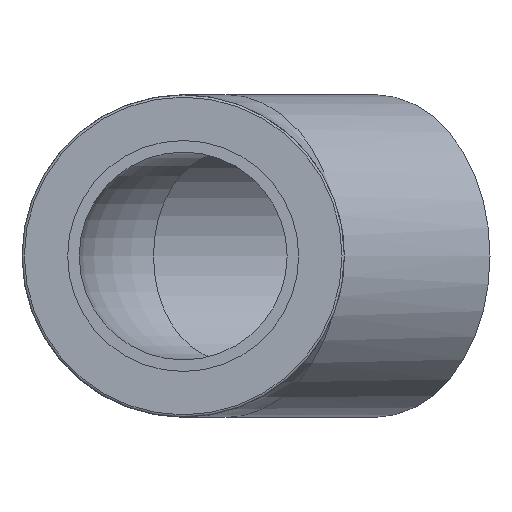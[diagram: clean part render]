
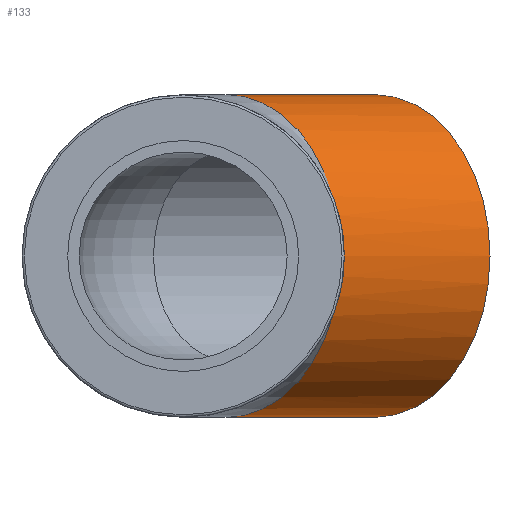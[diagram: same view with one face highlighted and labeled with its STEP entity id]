
A CAD part, left-side view. The second image highlights one B-rep face of the part: STEP entity #133.
In plain terms, the highlighted cylindrical face has radius 13 mm (diameter 26 mm), a full revolution.
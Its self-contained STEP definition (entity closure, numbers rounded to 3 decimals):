
#15=ELLIPSE('',#154,14.071,13.);
#23=CYLINDRICAL_SURFACE('',#153,13.);
#30=FACE_BOUND('',#58,.T.);
#41=FACE_OUTER_BOUND('',#57,.T.);
#57=EDGE_LOOP('',(#113,#114));
#58=EDGE_LOOP('',(#115));
#74=CIRCLE('',#152,13.);
#75=CIRCLE('',#155,13.);
#84=VERTEX_POINT('',#253);
#85=VERTEX_POINT('',#254);
#86=VERTEX_POINT('',#259);
#96=EDGE_CURVE('',#85,#84,#74,.T.);
#97=EDGE_CURVE('',#84,#85,#15,.T.);
#98=EDGE_CURVE('',#86,#86,#75,.T.);
#113=ORIENTED_EDGE('',*,*,#97,.F.);
#114=ORIENTED_EDGE('',*,*,#96,.F.);
#115=ORIENTED_EDGE('',*,*,#98,.T.);
#133=ADVANCED_FACE('',(#41,#30),#23,.T.);
#152=AXIS2_PLACEMENT_3D('',#256,#188,#189);
#153=AXIS2_PLACEMENT_3D('',#257,#190,#191);
#154=AXIS2_PLACEMENT_3D('',#258,#192,#193);
#155=AXIS2_PLACEMENT_3D('',#260,#194,#195);
#188=DIRECTION('center_axis',(-0.707,0.707,0.));
#189=DIRECTION('ref_axis',(0.,0.,-1.));
#190=DIRECTION('center_axis',(-0.707,0.707,0.));
#191=DIRECTION('ref_axis',(-0.707,-0.707,0.));
#192=DIRECTION('center_axis',(-0.924,0.383,0.));
#193=DIRECTION('ref_axis',(-0.383,-0.924,0.));
#194=DIRECTION('center_axis',(-0.707,0.707,0.));
#195=DIRECTION('ref_axis',(0.,0.,-1.));
#253=CARTESIAN_POINT('',(-5.,-12.071,-4.826));
#254=CARTESIAN_POINT('',(-5.,-12.071,4.826));
#256=CARTESIAN_POINT('Origin',(3.536,-3.536,0.));
#257=CARTESIAN_POINT('Origin',(9.546,-9.546,0.));
#258=CARTESIAN_POINT('Origin',(0.,0.,
0.));
#259=CARTESIAN_POINT('',(6.364,-24.749,0.));
#260=CARTESIAN_POINT('Origin',(15.556,-15.556,0.));
